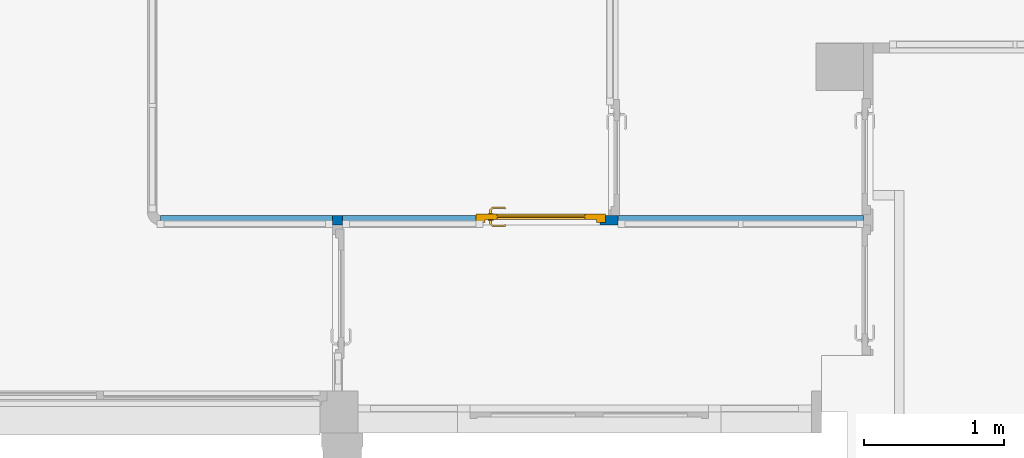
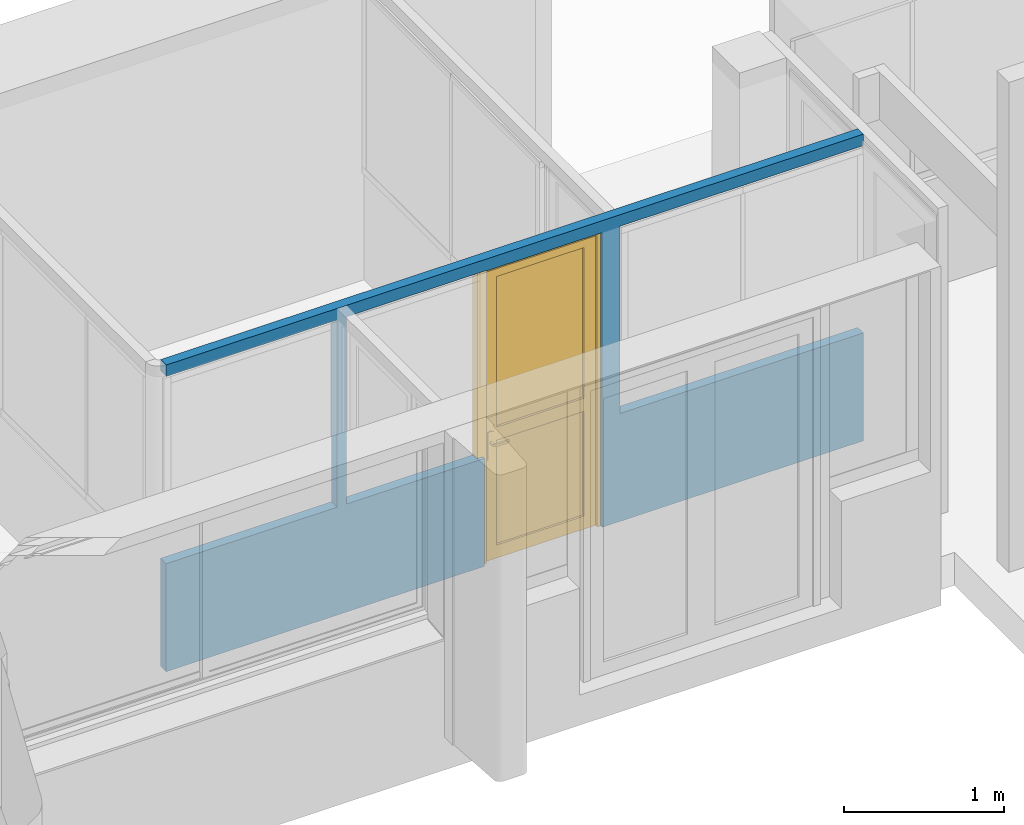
# One storey, part 7 of 19: 1 door, 1 wall, 5 openings.
"""IFC4 building model written with IfcOpenShell, lengths in metres."""

from ifc_helpers import new_model, entity, si_unit, converted_unit, derived_unit, direction, frame, origin, place, context, subcontext, project, spatial, indexed_curve, outline, extrude, polygons, source, transform, mapped, material, material_list, layer, layer_set, constituent, constituent_set, type_object, type_shapes, element, fill, save


model = new_model("IFC4")

# Units and contexts
model_context = context("Model", 3, precision=1e-05, world=origin(), true_north=direction((6.12303176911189e-17, 1.0)))
body_context = subcontext(model_context, "Body", "Model", "MODEL_VIEW")
ifc_project = project(units=[si_unit("LENGTHUNIT", "METRE"), si_unit("AREAUNIT", "SQUARE_METRE"), si_unit("VOLUMEUNIT", "CUBIC_METRE"), converted_unit("PLANEANGLEUNIT", "DEGREE", entity("IfcRatioMeasure", 0.0174532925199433), si_unit("PLANEANGLEUNIT", "RADIAN"), dimensions=[0, 0, 0, 0, 0, 0, 0]), si_unit("MASSUNIT", "GRAM", prefix="KILO"), derived_unit("MASSDENSITYUNIT", [(si_unit("MASSUNIT", "GRAM", prefix="KILO"), 1), (si_unit("LENGTHUNIT", "METRE"), -3)]), derived_unit("MOMENTOFINERTIAUNIT", [(si_unit("LENGTHUNIT", "METRE"), 4)]), si_unit("TIMEUNIT", "SECOND"), si_unit("FREQUENCYUNIT", "HERTZ"), si_unit("THERMODYNAMICTEMPERATUREUNIT", "DEGREE_CELSIUS"), derived_unit("THERMALTRANSMITTANCEUNIT", [(si_unit("MASSUNIT", "GRAM", prefix="KILO"), 1), (si_unit("THERMODYNAMICTEMPERATUREUNIT", "KELVIN"), -1), (si_unit("TIMEUNIT", "SECOND"), -3)]), derived_unit("VOLUMETRICFLOWRATEUNIT", [(si_unit("LENGTHUNIT", "METRE"), 3), (si_unit("TIMEUNIT", "SECOND"), -1)]), si_unit("ELECTRICCURRENTUNIT", "AMPERE"), si_unit("ELECTRICVOLTAGEUNIT", "VOLT"), si_unit("POWERUNIT", "WATT"), si_unit("FORCEUNIT", "NEWTON", prefix="KILO"), si_unit("ILLUMINANCEUNIT", "LUX"), si_unit("LUMINOUSFLUXUNIT", "LUMEN"), si_unit("LUMINOUSINTENSITYUNIT", "CANDELA"), derived_unit("USERDEFINED", [(si_unit("MASSUNIT", "GRAM", prefix="KILO"), -1), (si_unit("LENGTHUNIT", "METRE"), -2), (si_unit("TIMEUNIT", "SECOND"), 3), (si_unit("LUMINOUSFLUXUNIT", "LUMEN"), 1)]), derived_unit("LINEARVELOCITYUNIT", [(si_unit("LENGTHUNIT", "METRE"), 1), (si_unit("TIMEUNIT", "SECOND"), -1)]), si_unit("PRESSUREUNIT", "PASCAL"), derived_unit("USERDEFINED", [(si_unit("LENGTHUNIT", "METRE"), -2), (si_unit("MASSUNIT", "GRAM", prefix="KILO"), 1), (si_unit("TIMEUNIT", "SECOND"), -2)]), derived_unit("LINEARFORCEUNIT", [(si_unit("MASSUNIT", "GRAM", prefix="KILO"), 1), (si_unit("LENGTHUNIT", "METRE"), 1), (si_unit("TIMEUNIT", "SECOND"), -2), (si_unit("LENGTHUNIT", "METRE"), -1)]), derived_unit("PLANARFORCEUNIT", [(si_unit("MASSUNIT", "GRAM", prefix="KILO"), 1), (si_unit("LENGTHUNIT", "METRE"), 1), (si_unit("TIMEUNIT", "SECOND"), -2), (si_unit("LENGTHUNIT", "METRE"), -2)])], contexts=[model_context])

# Site, building, storey
site_placement = place(None, origin())
site = spatial("IfcSite", under=ifc_project, at=site_placement, Name="Default", CompositionType="ELEMENT")
building_placement = place(site_placement, origin())
building = spatial("IfcBuilding", under=site, at=building_placement, Name="HOTEL CONSULAIRE BOULOGNE SUR MER", CompositionType="ELEMENT")
storey_placement = place(building_placement, frame((0.0, 0.0, -4.01003075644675)))
storey = spatial("IfcBuildingStorey", under=building, at=storey_placement, Name="SS2", CompositionType="ELEMENT", Elevation=-4.01003075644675)

# Wall, openings, door
ifc_material_1 = material(Name="Mur par défaut", Category="Divers")
ifc_layer = layer(ifc_material_1, 0.07, Name="Mur par défaut", Category="Divers")
ifc_layer_set = layer_set([ifc_layer], Name="Mur de base:Générique - Int. 70 mm")
wall_type = type_object("IfcWallType", Name="Mur de base:Générique - Int. 70 mm", PredefinedType="NOTDEFINED", material=ifc_layer_set)
wall_placement = place(storey_placement, frame((-13.5453496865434, -13.51432416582, 0.0), z_axis=(0.0, 0.0, 1.0), x_axis=(-1.0, 0.0, 0.0)))
wall = element("IfcWall", 1, at=wall_placement, inside=storey, type_object=wall_type, material=ifc_layer_set, Name="Mur de base:Générique - Int. 70 mm", ObjectType="Mur de base:Générique - Int. 70 mm", PredefinedType="NOTDEFINED", context=body_context, shape_type="Tessellation", body=[
    polygons([(5.03442907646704, 0.0350000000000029, 0.0), (5.03442907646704, -0.0349999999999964, 0.0), (2.77584469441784, -0.0349999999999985, 0.0), (2.77584469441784, 0.0150000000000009, 0.0), (2.73584469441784, 0.0150000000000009, 0.0), (2.73584469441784, 0.0350000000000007, 0.0), (3.73142907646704, 0.0350000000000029, 0.0), (3.80142907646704, 0.0350000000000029, 0.0), (5.03442907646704, 0.0350000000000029, 2.34113097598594), (5.03442907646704, -0.0349999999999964, 2.34113097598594), (5.03442907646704, -0.0349999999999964, 2.25353263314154), (5.03442907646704, 0.0350000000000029, 2.25353263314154), (-6.52109084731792e-16, -0.0349999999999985, 2.34113097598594), (-8.69187787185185e-16, 0.0350000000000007, 2.34113097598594), (-8.69187787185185e-16, 0.0350000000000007, 2.29000000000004), (-8.69187787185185e-16, 0.0350000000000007, 2.25353263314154), (-6.52109084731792e-16, -0.0349999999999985, 2.25353263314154), (2.77584469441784, -0.0350000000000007, 2.29000000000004), (2.77584469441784, 0.0149999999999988, 2.29000000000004), (2.77584469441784, 0.0150000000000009, 2.25353263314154), (2.77584469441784, -0.0349999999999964, 2.25353263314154), (1.88584469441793, 0.0150000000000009, 0.0), (1.88584469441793, 0.0150000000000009, 2.25000000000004), (2.72584469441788, 0.0150000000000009, 2.25000000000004), (2.72584469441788, 0.0150000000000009, 2.25353263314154), (1.84584469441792, 0.0150000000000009, 2.29000000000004), (1.84584469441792, 0.0150000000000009, 0.0), (1.82684469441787, -0.0349999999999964, 2.34113097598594), (1.75684469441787, -0.0349999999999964, 2.34113097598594), (1.75684469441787, -0.0349999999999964, 2.25353263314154), (1.75684469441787, -0.0349999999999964, 0.824265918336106), (-6.52109084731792e-16, -0.0349999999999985, 0.824265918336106), (-6.52109084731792e-16, -0.0349999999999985, 0.0), (1.80684469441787, -0.0349999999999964, 0.0), (1.82684469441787, -0.0349999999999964, 0.0), (1.84584469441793, -0.0349999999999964, 0.0), (1.84584469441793, -0.0349999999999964, 2.29000000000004), (3.73142907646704, -0.0349999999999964, 2.25353263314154), (3.73142907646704, -0.0349999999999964, 0.824265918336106), (2.77584469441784, -0.0349999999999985, 0.824265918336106), (5.03442907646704, -0.0349999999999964, 0.824265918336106), (3.80142907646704, -0.0349999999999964, 0.824265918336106), (3.80142907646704, -0.0349999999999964, 2.25353263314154), (3.73142907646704, 0.0350000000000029, 2.34113097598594), (3.80142907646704, 0.0350000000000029, 2.34113097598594), (3.80142907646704, 0.0350000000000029, 2.25353263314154), (3.80142907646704, 0.0350000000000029, 0.824265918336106), (5.03442907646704, 0.0350000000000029, 0.824265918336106), (2.73584469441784, 0.0350000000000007, 0.824265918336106), (3.73142907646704, 0.0350000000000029, 0.824265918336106), (3.73142907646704, 0.0350000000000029, 2.25353263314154), (2.72584469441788, 0.0350000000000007, 2.25353263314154), (2.72584469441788, 0.0350000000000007, 2.25000000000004), (1.88584469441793, 0.0350000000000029, 2.25000000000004), (1.88584469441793, 0.0350000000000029, 0.0), (-8.69187787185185e-16, 0.0350000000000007, 0.0), (-8.69187787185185e-16, 0.0350000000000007, 0.824265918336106), (1.75684469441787, 0.0350000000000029, 0.824265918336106), (1.75684469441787, 0.0350000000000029, 2.25353263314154), (2.73584469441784, 0.0150000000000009, 0.824265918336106), (2.77584469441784, 0.0150000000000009, 0.824265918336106)], [[[7, 8, 1, 2, 3, 4, 5, 6]], [[34, 33, 56, 55, 22, 27, 36, 35]], [[17, 16, 59, 30]], [[43, 46, 12, 11]], [[52, 51, 38, 21, 20, 25]], [[23, 54, 53, 24]], [[19, 18, 37, 26]], [[10, 11, 12, 9]], [[41, 2, 1, 48]], [[42, 47, 46, 43]], [[24, 53, 52, 25]], [[54, 23, 22, 55]], [[26, 37, 36, 27]], [[15, 16, 17, 13, 14]], [[20, 21, 18, 19]], [[57, 56, 33, 32]], [[30, 59, 58, 31]], [[38, 51, 50, 39]], [[60, 49, 6, 5]], [[4, 3, 40, 61]], [[23, 24, 25, 20, 19, 26, 27, 22]], [[33, 34, 35, 36, 37, 18, 21, 38, 39, 40, 3, 2, 41, 42, 43, 11, 10, 28, 29, 13, 17, 30, 31, 32]], [[5, 4, 61, 60]], [[1, 8, 7, 6, 49, 50, 51, 52, 53, 54, 55, 56, 57, 58, 59, 16, 15, 14, 44, 45, 9, 12, 46, 47, 48]], [[28, 10, 9, 45, 44, 14, 13, 29]], [[32, 31, 58, 57]], [[42, 41, 48, 47]], [[61, 40, 39, 50, 49, 60]]], closed=True),
])
opening_1_placement = place(wall_placement, frame((1.75684469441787, 0.187400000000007, 0.824265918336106)))
element("IfcOpeningElement", 2, at=opening_1_placement, cuts=wall, Name="Mur de base:Générique - Int. 70 mm", ObjectType="Opening", PredefinedType="OPENING", context=body_context, shape_type="SweptSolid", body=[
    extrude(outline(indexed_curve([(-0.714633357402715, -0.878422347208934), (0.714633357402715, -0.878422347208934), (0.714633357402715, 0.878422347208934), (-0.714633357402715, 0.878422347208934), (-0.714633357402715, -0.878422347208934)], self_intersect=False)), frame((-0.878422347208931, -0.374800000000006, 0.714633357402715), z_axis=(0.0, 1.0, 0.0), x_axis=(0.0, 0.0, 1.0)), (0.0, 0.0, 1.0), 0.374799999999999),
])
opening_2_placement = place(wall_placement, frame((5.05842907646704, 0.187400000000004, 0.824265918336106)))
element("IfcOpeningElement", 3, at=opening_2_placement, cuts=wall, Name="Mur de base:Générique - Int. 70 mm", ObjectType="Opening", PredefinedType="OPENING", context=body_context, shape_type="SweptSolid", body=[
    extrude(outline(indexed_curve([(-0.714633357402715, -0.6285), (0.714633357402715, -0.6285), (0.714633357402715, 0.628500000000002), (-0.714633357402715, 0.628500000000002), (-0.714633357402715, -0.6285)], self_intersect=False)), frame((-0.6285, -0.374800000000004, 0.714633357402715), z_axis=(0.0, 1.0, 0.0), x_axis=(0.0, 0.0, 1.0)), (0.0, 0.0, 1.0), 0.374799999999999),
])
opening_3_placement = place(wall_placement, frame((3.73142907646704, 0.187400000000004, 0.824265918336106)))
element("IfcOpeningElement", 4, at=opening_3_placement, cuts=wall, Name="Mur de base:Générique - Int. 70 mm", ObjectType="Opening", PredefinedType="OPENING", context=body_context, shape_type="SweptSolid", body=[
    extrude(outline(indexed_curve([(-0.714633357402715, -0.502792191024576), (0.714633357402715, -0.502792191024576), (0.714633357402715, 0.502792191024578), (-0.714633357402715, 0.502792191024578), (-0.714633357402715, -0.502792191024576)], self_intersect=False)), frame((-0.502792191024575, -0.374800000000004, 0.714633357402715), z_axis=(0.0, 1.0, 0.0), x_axis=(0.0, 0.0, 1.0)), (0.0, 0.0, 1.0), 0.374799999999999),
])
opening_4_placement = place(wall_placement, frame((2.12684469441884, -0.0349999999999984, 0.0)))
element("IfcOpeningElement", 5, at=opening_4_placement, cuts=wall, Name="Mur de base:Générique - Int. 70 mm", ObjectType="Opening", PredefinedType="OPENING", context=body_context, shape_type="Tessellation", body=[
    polygons([(-0.670000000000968, -0.0400000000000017, 2.25000000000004), (-0.670000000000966, -0.78999999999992, 2.25000000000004), (-0.370000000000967, -0.789999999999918, 2.25000000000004), (-0.370000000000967, -0.0399999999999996, 2.25000000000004), (-0.670000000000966, -0.78999999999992, 0.0), (-0.370000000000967, -0.789999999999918, 0.0), (-0.670000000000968, -0.0400000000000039, 0.0), (-0.370000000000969, -0.0400000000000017, 0.0), (3.8549740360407e-15, -0.789999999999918, 2.25000000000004), (1.52913079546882e-15, -0.0400000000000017, 2.25000000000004), (-0.320000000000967, -0.0399999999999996, 2.25000000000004), (-0.320000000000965, -0.789999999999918, 2.25000000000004), (1.52913079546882e-15, -0.0400000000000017, 0.0), (3.8549740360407e-15, -0.789999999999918, 0.0), (-0.320000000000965, -0.789999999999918, 0.0), (-0.320000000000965, -0.829999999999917, 0.0), (-0.370000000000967, -0.829999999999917, 0.0), (-0.370000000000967, 0.0, 0.0), (-0.320000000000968, 0.0, 0.0), (-0.320000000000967, -0.0399999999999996, 0.0), (-0.370000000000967, -0.829999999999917, 2.29000000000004), (-0.370000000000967, 0.0, 2.29000000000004), (-0.320000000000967, -0.829999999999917, 2.29000000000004), (-0.320000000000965, 0.0, 2.29000000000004)], [[[2, 3, 4, 1]], [[9, 10, 11, 12]], [[22, 21, 23, 24]], [[5, 6, 3, 2]], [[14, 9, 12, 15]], [[21, 17, 16, 23]], [[8, 7, 1, 4]], [[20, 11, 10, 13]], [[18, 22, 24, 19]], [[13, 14, 15, 16, 17, 6, 5, 7, 8, 18, 19, 20]], [[14, 13, 10, 9]], [[12, 11, 20, 19, 24, 23, 16, 15]], [[7, 5, 2, 1]], [[4, 3, 6, 17, 21, 22, 18, 8]]], closed=True),
])
opening_5_placement = place(wall_placement, frame((2.77584469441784, 0.335000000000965, 0.0), z_axis=(0.0, 0.0, 1.0), x_axis=(-1.0, 0.0, 0.0)))
opening_5 = element("IfcOpeningElement", 6, at=opening_5_placement, cuts=wall, Name="Mur de base:Générique - Int. 70 mm", ObjectType="Opening", PredefinedType="OPENING", context=body_context, shape_type="Tessellation", body=[
    polygons([(0.0400000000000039, 0.670000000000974, 2.25000000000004), (0.0400000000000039, 0.670000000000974, 0.0), (0.0400000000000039, 0.370000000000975, 0.0), (0.0400000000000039, 0.370000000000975, 2.25000000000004), (0.889999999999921, 0.670000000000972, 2.25000000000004), (0.889999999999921, 0.370000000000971, 2.25000000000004), (0.889999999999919, 0.67000000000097, 0.0), (0.889999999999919, 0.370000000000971, 0.0), (0.0400000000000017, 4.33146851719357e-15, 2.25000000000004), (0.889999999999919, 2.16573425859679e-15, 2.25000000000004), (0.889999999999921, 0.320000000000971, 2.25000000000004), (0.0400000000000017, 0.320000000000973, 2.25000000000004), (0.889999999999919, 2.16573425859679e-15, 0.0), (0.0400000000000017, 4.33146851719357e-15, 0.0), (0.0400000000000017, 0.320000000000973, 0.0), (2.16573425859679e-15, 0.320000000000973, 0.0), (2.16573425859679e-15, 0.370000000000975, 0.0), (0.929999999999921, 0.370000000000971, 0.0), (0.929999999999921, 0.320000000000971, 0.0), (0.889999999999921, 0.320000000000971, 0.0), (2.16573425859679e-15, 0.370000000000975, 2.29000000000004), (0.929999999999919, 0.370000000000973, 2.29000000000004), (0.0, 0.320000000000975, 2.29000000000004), (0.929999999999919, 0.320000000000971, 2.29000000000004)], [[[2, 3, 4, 1]], [[14, 9, 12, 15]], [[21, 17, 16, 23]], [[4, 6, 5, 1]], [[12, 9, 10, 11]], [[22, 21, 23, 24]], [[8, 7, 5, 6]], [[20, 11, 10, 13]], [[18, 22, 24, 19]], [[13, 14, 15, 16, 17, 3, 2, 7, 8, 18, 19, 20]], [[13, 10, 9, 14]], [[12, 11, 20, 19, 24, 23, 16, 15]], [[2, 1, 5, 7]], [[6, 4, 3, 17, 21, 22, 18, 8]]], closed=True),
])
ifc_material_2 = material(Name="PVC - Blanc", Category="Plastique")
ifc_constituent_1 = constituent(ifc_material_2, Name="PVC - Blanc", Category="Matériaux")
ifc_material_3 = material(Name="Verre", Category="Verre")
ifc_constituent_2 = constituent(ifc_material_3, Name="Verre", Category="Matériaux")
ifc_constituent_set = constituent_set(constituents=[ifc_constituent_1, ifc_constituent_2], Name="MaterialConstituentSet")
ifc_material_list = material_list([ifc_material_2, ifc_material_2, ifc_material_2])
door_type = type_object("IfcDoorType", Name="PVC Panneau Vitré :0.83m x 2.24", OperationType="SINGLE_SWING_LEFT", PredefinedType="DOOR", material=ifc_material_list)
shared_shape = source(origin(), body_context, "Body", "Tessellation", [
    polygons([(0.818999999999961, 0.40500000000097, 0.893000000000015), (0.822974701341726, 0.40500000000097, 0.892219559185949), (0.827025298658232, 0.40500000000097, 0.892219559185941), (0.830999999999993, 0.40500000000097, 0.892999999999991), (0.830999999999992, 0.40500000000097, 0.906999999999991), (0.827025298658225, 0.40500000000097, 0.907780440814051), (0.822974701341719, 0.40500000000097, 0.907780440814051), (0.818999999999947, 0.40500000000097, 0.90699999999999), (0.818999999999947, 0.427485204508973, 0.90699999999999), (0.818999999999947, 0.427485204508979, 0.893000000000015), (0.830999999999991, 0.432455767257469, 0.906999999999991), (0.827025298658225, 0.430809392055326, 0.907780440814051), (0.822974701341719, 0.429131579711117, 0.907780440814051), (0.830999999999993, 0.432455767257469, 0.892999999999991), (0.822974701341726, 0.42913157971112, 0.892219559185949), (0.827025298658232, 0.430809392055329, 0.892219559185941), (0.807514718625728, 0.438970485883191, 0.90699999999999), (0.807514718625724, 0.438970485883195, 0.893000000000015), (0.812485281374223, 0.450970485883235, 0.906999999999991), (0.810838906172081, 0.446995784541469, 0.907780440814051), (0.809161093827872, 0.442945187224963, 0.907780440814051), (0.812485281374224, 0.450970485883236, 0.892999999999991), (0.809161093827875, 0.44294518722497, 0.892219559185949), (0.810838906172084, 0.446995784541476, 0.892219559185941), (0.727439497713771, 0.438970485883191, 0.90699999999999), (0.727439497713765, 0.438970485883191, 0.893000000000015), (0.722468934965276, 0.450970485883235, 0.906999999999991), (0.724115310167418, 0.446995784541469, 0.90778044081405), (0.725793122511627, 0.442945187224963, 0.907780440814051), (0.762399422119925, 0.450970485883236, 0.906999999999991), (0.767477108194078, 0.445124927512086, 0.907878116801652), (0.76747710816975, 0.438970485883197, 0.906999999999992), (0.722468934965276, 0.450970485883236, 0.89299999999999), (0.725793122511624, 0.44294518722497, 0.892219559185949), (0.724115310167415, 0.446995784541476, 0.892219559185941), (0.772554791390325, 0.450970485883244, 0.892999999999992), (0.76747710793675, 0.445124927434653, 0.892121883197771), (0.76747710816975, 0.438970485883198, 0.893000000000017), (0.722125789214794, 0.433656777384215, 0.893000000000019), (0.72212578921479, 0.433656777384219, 0.906999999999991), (0.719315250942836, 0.436467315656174, 0.907780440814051), (0.716451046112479, 0.439331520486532, 0.90778044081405), (0.713640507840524, 0.442142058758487, 0.90699999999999), (0.713640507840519, 0.442142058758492, 0.892999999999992), (0.716451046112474, 0.439331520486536, 0.892219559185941), (0.719315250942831, 0.436467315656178, 0.892219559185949)], [[[2, 3, 4, 5, 6, 7, 8, 1]], [[18, 17, 32, 25, 26, 38]], [[9, 10, 1, 8]], [[7, 13, 9, 8]], [[7, 6, 12, 20, 21, 13]], [[29, 28, 42, 41]], [[5, 11, 12, 6]], [[11, 5, 4, 14]], [[4, 3, 16, 14]], [[3, 2, 15, 23, 24, 16]], [[35, 34, 46, 45]], [[2, 1, 10, 15]], [[17, 18, 10, 9]], [[41, 42, 43, 44, 45, 46, 39, 40]], [[9, 13, 21, 17]], [[11, 19, 20, 12]], [[22, 19, 11, 14]], [[14, 16, 24, 22]], [[15, 10, 18, 23]], [[31, 32, 21]], [[30, 27, 28]], [[30, 20, 19]], [[31, 20, 30]], [[29, 32, 31]], [[31, 28, 29]], [[17, 21, 32]], [[32, 29, 25]], [[20, 31, 21]], [[28, 31, 30]], [[19, 22, 36, 33, 27, 30]], [[24, 37, 36]], [[35, 36, 37]], [[36, 22, 24]], [[36, 35, 33]], [[23, 38, 37]], [[37, 24, 23]], [[37, 38, 34]], [[38, 23, 18]], [[26, 34, 38]], [[35, 37, 34]], [[40, 39, 26, 25]], [[25, 29, 41, 40]], [[28, 27, 43, 42]], [[44, 43, 27, 33]], [[35, 45, 44, 33]], [[26, 39, 46, 34]]], closed=True),
    polygons([(0.830999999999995, 0.35500000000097, 0.906999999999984), (0.831000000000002, 0.35500000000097, 0.892999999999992), (0.827025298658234, 0.35500000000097, 0.892219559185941), (0.822974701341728, 0.35500000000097, 0.892219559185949), (0.81899999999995, 0.35500000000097, 0.893000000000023), (0.818999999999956, 0.35500000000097, 0.906999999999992), (0.822974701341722, 0.35500000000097, 0.907780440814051), (0.827025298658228, 0.35500000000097, 0.90778044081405), (0.818999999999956, 0.332319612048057, 0.906999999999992), (0.822974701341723, 0.330673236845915, 0.907780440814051), (0.827025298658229, 0.328995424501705, 0.90778044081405), (0.830999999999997, 0.327349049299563, 0.90699999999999), (0.81899999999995, 0.332319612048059, 0.893000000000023), (0.831000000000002, 0.32734904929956, 0.892999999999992), (0.827025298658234, 0.328995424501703, 0.892219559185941), (0.822974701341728, 0.330673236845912, 0.892219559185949), (0.807652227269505, 0.320971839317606, 0.906999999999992), (0.809298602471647, 0.31699713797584, 0.907780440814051), (0.810976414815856, 0.312946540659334, 0.90778044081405), (0.812622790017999, 0.308971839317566, 0.90699999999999), (0.807652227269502, 0.320971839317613, 0.893000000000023), (0.812622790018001, 0.308971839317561, 0.892999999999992), (0.810976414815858, 0.312946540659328, 0.892219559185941), (0.809298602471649, 0.316997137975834, 0.892219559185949), (0.727466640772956, 0.320971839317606, 0.906999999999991), (0.725820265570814, 0.31699713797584, 0.907780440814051), (0.724142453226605, 0.312946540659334, 0.90778044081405), (0.722496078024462, 0.308971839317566, 0.90699999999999), (0.77269230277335, 0.308971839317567, 0.90699999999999), (0.76755943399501, 0.314817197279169, 0.907878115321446), (0.767559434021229, 0.32097183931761, 0.90699999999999), (0.727466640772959, 0.320971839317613, 0.893000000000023), (0.72249607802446, 0.308971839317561, 0.892999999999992), (0.724142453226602, 0.312946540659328, 0.892219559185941), (0.725820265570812, 0.316997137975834, 0.892219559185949), (0.762426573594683, 0.308971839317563, 0.892999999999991), (0.767559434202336, 0.314817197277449, 0.892121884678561), (0.767559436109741, 0.320971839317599, 0.893000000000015), (0.71366765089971, 0.317800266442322, 0.90699999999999), (0.716478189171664, 0.320610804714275, 0.90778044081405), (0.719342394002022, 0.323475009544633, 0.907780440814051), (0.722152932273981, 0.326285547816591, 0.906999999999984), (0.722152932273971, 0.326285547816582, 0.893000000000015), (0.719342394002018, 0.323475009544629, 0.892219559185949), (0.71647818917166, 0.320610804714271, 0.892219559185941), (0.71366765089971, 0.317800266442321, 0.892999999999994)], [[[7, 8, 1, 2, 3, 4, 5, 6]], [[17, 21, 38, 32, 25, 31]], [[1, 8, 11, 12]], [[8, 7, 10, 18, 19, 11]], [[27, 26, 41, 40]], [[7, 6, 9, 10]], [[13, 9, 6, 5]], [[4, 16, 13, 5]], [[4, 3, 15, 23, 24, 16]], [[35, 34, 45, 44]], [[2, 14, 15, 3]], [[12, 14, 2, 1]], [[12, 11, 19, 20]], [[10, 9, 17, 18]], [[21, 17, 9, 13]], [[43, 44, 45, 46, 39, 40, 41, 42]], [[13, 16, 24, 21]], [[15, 14, 22, 23]], [[20, 22, 14, 12]], [[19, 30, 29]], [[27, 29, 30]], [[29, 20, 19]], [[29, 27, 28]], [[18, 31, 30]], [[30, 19, 18]], [[30, 31, 26]], [[31, 18, 17]], [[25, 26, 31]], [[27, 30, 26]], [[37, 38, 24]], [[36, 33, 34]], [[36, 23, 22]], [[37, 23, 36]], [[35, 38, 37]], [[37, 34, 35]], [[21, 24, 38]], [[38, 35, 32]], [[23, 37, 24]], [[34, 37, 36]], [[22, 20, 29, 28, 33, 36]], [[27, 40, 39, 28]], [[25, 42, 41, 26]], [[43, 42, 25, 32]], [[32, 35, 44, 43]], [[34, 33, 46, 45]], [[39, 46, 33, 28]]], closed=True),
    polygons([(0.804999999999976, 0.40000000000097, 0.980000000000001), (0.804999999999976, 0.40000000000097, 0.770000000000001), (0.814647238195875, 0.40000000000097, 0.766003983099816), (0.824999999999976, 0.40000000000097, 0.764641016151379), (0.835352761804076, 0.40000000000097, 0.766003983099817), (0.844999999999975, 0.40000000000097, 0.770000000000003), (0.844999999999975, 0.40000000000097, 0.980000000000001), (0.835352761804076, 0.40000000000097, 0.983996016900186), (0.824999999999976, 0.40000000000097, 0.985358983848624), (0.814647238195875, 0.40000000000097, 0.983996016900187), (0.804999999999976, 0.405000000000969, 0.980000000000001), (0.814647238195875, 0.40500000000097, 0.983996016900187), (0.824999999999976, 0.40500000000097, 0.985358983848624), (0.835352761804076, 0.40500000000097, 0.983996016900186), (0.844999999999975, 0.40500000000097, 0.980000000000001), (0.844999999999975, 0.40500000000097, 0.770000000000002), (0.835352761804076, 0.40500000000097, 0.766003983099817), (0.824999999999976, 0.40500000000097, 0.764641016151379), (0.814647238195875, 0.40500000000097, 0.766003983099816), (0.804999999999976, 0.405000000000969, 0.770000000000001)], [[[4, 5, 6, 7, 8, 9, 10, 1, 2, 3]], [[13, 14, 15, 16, 17, 18, 19, 20, 11, 12]], [[10, 12, 11, 1]], [[9, 13, 12, 10]], [[8, 14, 13, 9]], [[8, 7, 15, 14]], [[15, 7, 6, 16]], [[5, 17, 16, 6]], [[4, 18, 17, 5]], [[3, 19, 18, 4]], [[3, 2, 20, 19]], [[20, 2, 1, 11]]], closed=True),
    polygons([(0.844999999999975, 0.35500000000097, 0.770000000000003), (0.844999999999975, 0.35500000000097, 0.980000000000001), (0.835352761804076, 0.35500000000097, 0.983996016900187), (0.824999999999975, 0.35500000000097, 0.985358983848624), (0.814647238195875, 0.35500000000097, 0.983996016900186), (0.804999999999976, 0.35500000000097, 0.980000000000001), (0.804999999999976, 0.35500000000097, 0.770000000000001), (0.814647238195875, 0.35500000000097, 0.766003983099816), (0.824999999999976, 0.35500000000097, 0.764641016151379), (0.835352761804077, 0.35500000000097, 0.766003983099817), (0.844999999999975, 0.36000000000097, 0.770000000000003), (0.835352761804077, 0.36000000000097, 0.766003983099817), (0.824999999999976, 0.36000000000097, 0.764641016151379), (0.814647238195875, 0.36000000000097, 0.766003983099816), (0.804999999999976, 0.36000000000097, 0.770000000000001), (0.804999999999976, 0.36000000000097, 0.980000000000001), (0.814647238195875, 0.36000000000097, 0.983996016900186), (0.824999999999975, 0.36000000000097, 0.985358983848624), (0.835352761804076, 0.36000000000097, 0.983996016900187), (0.844999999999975, 0.36000000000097, 0.980000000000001)], [[[9, 10, 1, 2, 3, 4, 5, 6, 7, 8]], [[20, 11, 12, 13, 14, 15, 16, 17, 18, 19]], [[10, 12, 11, 1]], [[9, 13, 12, 10]], [[8, 14, 13, 9]], [[8, 7, 15, 14]], [[15, 7, 6, 16]], [[5, 17, 16, 6]], [[4, 18, 17, 5]], [[3, 19, 18, 4]], [[3, 2, 20, 19]], [[20, 2, 1, 11]]], closed=True),
    polygons([(0.929999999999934, 0.36000000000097, 0.0), (0.879999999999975, 0.36000000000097, 0.0), (0.879999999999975, 0.40000000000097, 0.0), (0.864999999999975, 0.40000000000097, 0.0), (0.864999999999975, 0.42000000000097, 0.0), (0.929999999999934, 0.42000000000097, 0.0), (0.929999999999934, 0.42000000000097, 2.29000000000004), (0.929999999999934, 0.36000000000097, 2.29000000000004), (0.864999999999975, 0.42000000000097, 2.22500000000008), (0.0649999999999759, 0.42000000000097, 2.22500000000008), (0.0649999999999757, 0.42000000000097, 1.39163836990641e-24), (1.65137237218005e-14, 0.42000000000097, 6.18310647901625e-24), (1.65137237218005e-14, 0.42000000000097, 2.29000000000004), (0.864999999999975, 0.40000000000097, 2.22500000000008), (0.879999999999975, 0.40000000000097, 2.24000000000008), (0.0499999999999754, 0.40000000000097, 2.24000000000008), (0.0499999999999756, 0.40000000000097, 1.06968753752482e-24), (0.0649999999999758, 0.40000000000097, 1.76770455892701e-24), (0.0649999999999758, 0.40000000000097, 2.22500000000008), (0.879999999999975, 0.36000000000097, 2.24000000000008), (1.64460445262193e-14, 0.36000000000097, 2.29000000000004), (1.64460445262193e-14, 0.36000000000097, 5.18655994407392e-24), (0.0499999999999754, 0.36000000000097, 1.7288530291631e-24), (0.0499999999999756, 0.36000000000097, 2.24000000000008)], [[[6, 1, 2, 3, 4, 5]], [[17, 23, 22, 12, 11, 18]], [[19, 10, 9, 14]], [[24, 16, 15, 20]], [[7, 8, 1, 6]], [[11, 10, 19, 18]], [[17, 16, 24, 23]], [[9, 10, 11, 12, 13, 7, 6, 5]], [[9, 5, 4, 14]], [[15, 3, 2, 20]], [[12, 22, 21, 13]], [[19, 14, 4, 3, 15, 16, 17, 18]], [[24, 20, 2, 1, 8, 21, 22, 23]], [[21, 8, 7, 13]]], closed=True),
    polygons([(0.779999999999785, 0.385000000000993, 2.15000000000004), (0.779999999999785, 0.385000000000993, 1.0), (0.149999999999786, 0.385000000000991, 1.0), (0.149999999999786, 0.385000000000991, 2.15000000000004), (0.779999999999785, 0.375000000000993, 2.15000000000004), (0.149999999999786, 0.375000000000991, 2.15000000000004), (0.149999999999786, 0.375000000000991, 1.0), (0.779999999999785, 0.375000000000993, 1.0)], [[[1, 2, 3, 4]], [[8, 5, 6, 7]], [[1, 5, 8, 2]], [[3, 2, 8, 7]], [[3, 7, 6, 4]], [[4, 6, 5, 1]]], closed=True),
    polygons([(0.149999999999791, 0.375000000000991, 0.9), (0.149999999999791, 0.375000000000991, 0.1), (0.779999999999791, 0.375000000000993, 0.1), (0.779999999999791, 0.375000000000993, 0.9), (0.149999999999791, 0.385000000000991, 0.9), (0.779999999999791, 0.385000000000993, 0.9), (0.779999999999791, 0.385000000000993, 0.1), (0.149999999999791, 0.385000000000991, 0.1)], [[[3, 4, 1, 2]], [[6, 7, 8, 5]], [[5, 1, 4, 6]], [[6, 4, 3, 7]], [[8, 7, 3, 2]], [[8, 2, 1, 5]]], closed=True),
    polygons([(0.879999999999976, 0.36000000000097, 2.24000000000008), (0.0499999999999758, 0.36000000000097, 2.24000000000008), (0.0499999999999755, 0.36000000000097, 2.70716777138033e-16), (0.879999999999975, 0.36000000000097, 2.70716782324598e-16), (0.149999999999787, 0.36000000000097, 2.15000000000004), (0.779999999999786, 0.36000000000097, 2.15000000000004), (0.779999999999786, 0.36000000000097, 1.0), (0.149999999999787, 0.36000000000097, 1.0), (0.149999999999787, 0.36000000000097, 0.1), (0.149999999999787, 0.36000000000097, 0.9), (0.779999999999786, 0.36000000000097, 0.9), (0.779999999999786, 0.36000000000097, 0.1), (0.879999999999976, 0.40000000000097, 2.24000000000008), (0.879999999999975, 0.40000000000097, 1.48859948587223e-16), (0.0499999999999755, 0.40000000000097, 2.70716781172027e-16), (0.0499999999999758, 0.40000000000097, 2.24000000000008), (0.149999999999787, 0.40000000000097, 2.15000000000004), (0.149999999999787, 0.40000000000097, 1.0), (0.779999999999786, 0.40000000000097, 1.0), (0.779999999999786, 0.40000000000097, 2.15000000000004), (0.149999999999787, 0.40000000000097, 0.1), (0.779999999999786, 0.40000000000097, 0.1), (0.779999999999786, 0.40000000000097, 0.9), (0.149999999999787, 0.40000000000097, 0.9)], [[[1, 2, 3, 4], [11, 12, 9, 10], [6, 7, 8, 5]], [[14, 15, 16, 13], [19, 20, 17, 18], [22, 23, 24, 21]], [[13, 1, 4, 14]], [[17, 5, 8, 18]], [[24, 10, 9, 21]], [[15, 14, 4, 3]], [[20, 6, 5, 17]], [[23, 11, 10, 24]], [[15, 3, 2, 16]], [[19, 7, 6, 20]], [[22, 12, 11, 23]], [[16, 2, 1, 13]], [[18, 8, 7, 19]], [[21, 9, 12, 22]]], closed=True),
])
type_shapes(door_type, [shared_shape])
door_placement = place(opening_5_placement, frame((0.929999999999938, 0.740000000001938, 0.0), z_axis=(0.0, 0.0, 1.0), x_axis=(-1.0, 0.0, 0.0)))
door = element("IfcDoor", 7, at=door_placement, inside=storey, type_object=door_type, material=ifc_constituent_set, Name="PVC Panneau Vitré :0.83m x 2.24", ObjectType="PVC Panneau Vitré :0.83m x 2.24", OperationType="SINGLE_SWING_LEFT", OverallHeight=2.29000000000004, OverallWidth=0.929999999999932, PredefinedType="DOOR", context=body_context, shape_type="MappedRepresentation", body=[
    mapped(shared_shape, transform((0.0, 0.0, 0.0), scale=1.0)),
])
fill(opening_5, door)

save(model, "model.ifc")
